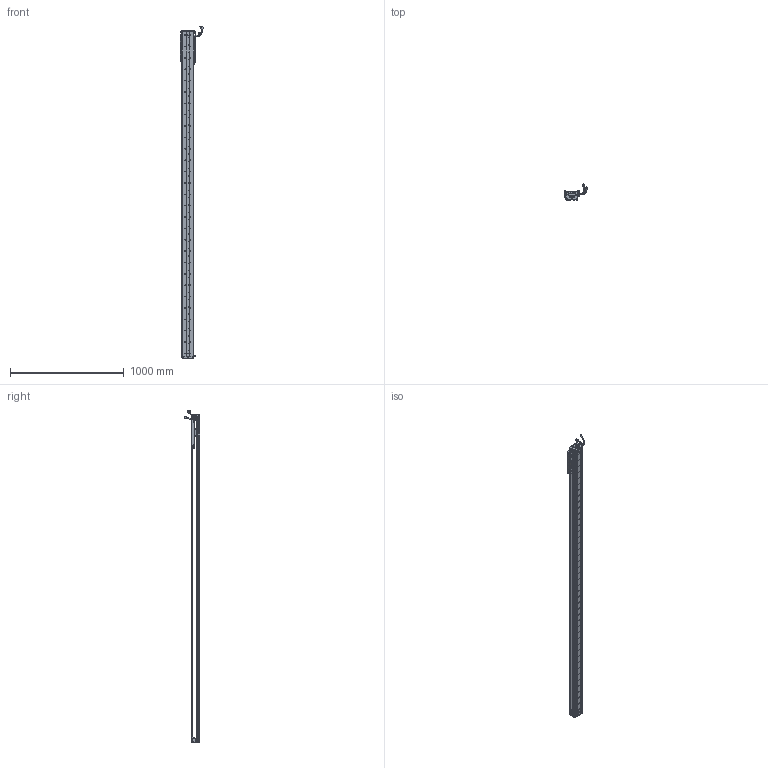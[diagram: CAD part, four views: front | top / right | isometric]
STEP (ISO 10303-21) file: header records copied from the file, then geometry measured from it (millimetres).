
FILE_DESCRIPTION (( 'STEP AP203' ), '1' );
FILE_NAME ('Z3-RY100D-1-L500-B-K.SLDASM_2550.step', '2021-05-17T02:52:33', ( '盈信电脑' ), ( '东莞市道滘镇水果街19号' ), 'SwSTEP 2.0', 'SolidWorks 2016', '' );
FILE_SCHEMA (( 'CONFIG_CONTROL_DESIGN' ));
Length unit declared in the file: millimetre
Products named in the file (36): SEAL; PSLH080_PSLF2; 覜茼ん672; SCREW-M1.6; HARNESS; Z-100詩湍傷裔啣; Z3-RY100D-500-倰第菁釱_2550; LABEL-Part-1; SCREW-M1.6-2; LABEL; Z-RY100D詩湍狟揤裔; SCALE; COVER-Part-1; SEAL-Part-1; Z-RY100D詩湍奻揤裔; SHIELDPLATE; Z3-RY100D-1-L500-B-K.SLDASM_2550; Z3-RY100-L500詩湍90mm遵_2550; PBU_SHEET; 140雄赽晤鎢ん堤盄; SCREW-M1.6-1; 140蚥薯蝶輸; 080黍杅芛假蚾釱21遴; Z-RY100D覜茼んえ; 榋妏寠巭燃_暯_M2_2; SCALE-Part-2; SCALE-Part-1; COVER; HARNESS-Part-2; SCREW-M1.6-3; SCREW-M1.7; HOLDER0; Z3-RY100铝滑块（21款）; 100-Z-臏賑輸盄裔(21遴); SCREW-M1.7-1; HARNESS-Part-1
Assembly tree (43 placements, depth 4):
  Z3-RY100D-1-L500-B-K.SLDASM_2550
    Z3-RY100D-500-倰第菁釱_2550
    Z3-RY100铝滑块（21款）
    PSLH080_PSLF2
      SCALE
        SCALE-Part-1
        SCALE-Part-2
      HARNESS
        HARNESS-Part-1
        HARNESS-Part-2
      LABEL
        LABEL-Part-1
      COVER
        COVER-Part-1
      SEAL
        SEAL-Part-1
      榋妏寠巭燃_暯_M2_2
      SHIELDPLATE
      SCREW-M1.7
      SCREW-M1.7-1
      PBU_SHEET
      SCREW-M1.6
      SCREW-M1.6-1
      SCREW-M1.6-2
      SCREW-M1.6-3
      HOLDER0
    080黍杅芛假蚾釱21遴
    Z-100詩湍傷裔啣  x2
    140蚥薯蝶輸  x2
    覜茼ん672  x3
    Z-RY100D覜茼んえ  x3
    100-Z-臏賑輸盄裔(21遴)
    140雄赽晤鎢ん堤盄
    Z3-RY100-L500詩湍90mm遵_2550
    Z-RY100D詩湍狟揤裔  x2
    Z-RY100D詩湍奻揤裔  x2
Bounding box: 205.79 x 136.11 x 2920.43 mm (x, y, z)
Volume: 5295761.4 mm3; surface area: 2090071.1 mm2
Topology: 38 solids, 38 shells, 3077 faces, 8437 edges, 5392 vertices
Faces by surface type: cylinder 1534, plane 1195, cone 226, torus 69, bspline 53
Entity records: 89783 total; most frequent: CARTESIAN_POINT 18789, DIRECTION 14511, ORIENTED_EDGE 13754, EDGE_CURVE 6877, AXIS2_PLACEMENT_3D 5470, VERTEX_POINT 4460, VECTOR 3571, LINE 3571
